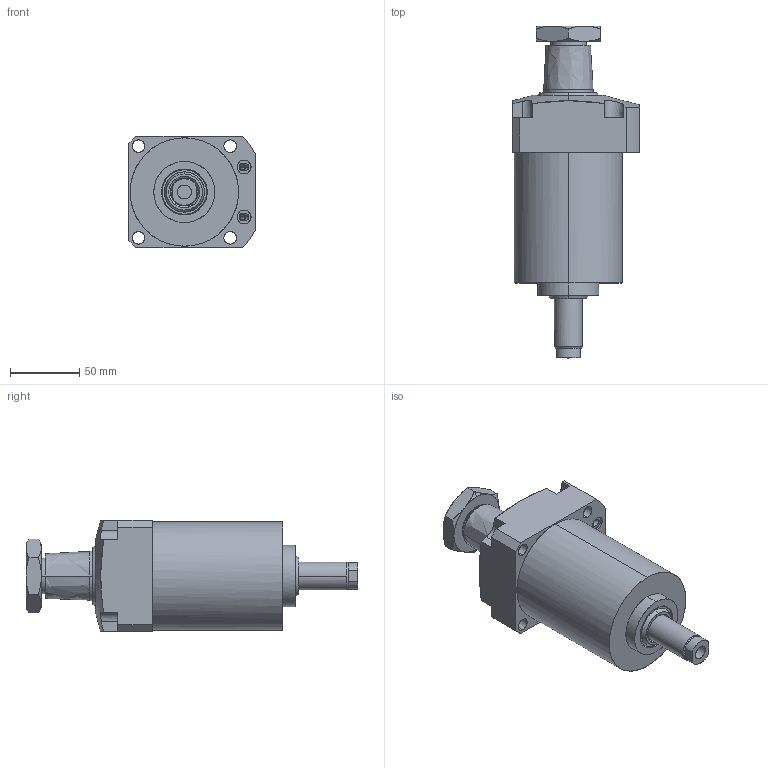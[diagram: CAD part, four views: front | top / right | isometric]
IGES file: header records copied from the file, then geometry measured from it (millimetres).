
Start section: Comment
Global section: file name: JF6H65-33D.igs; native system:  By Spatial Corp.; preprocessor: XPlus GENERIC/IGES 3.0; author: Author; organization: Title; date: 20080526.100326; units: millimetre
Bounding box: 91 x 239 x 80 mm (x, y, z)
Surface area: 121409.4 mm2 (no closed solid volume)
Topology: 0 solids, 0 shells, 252 faces, 1120 edges, 1110 vertices
Faces by surface type: bspline 252
